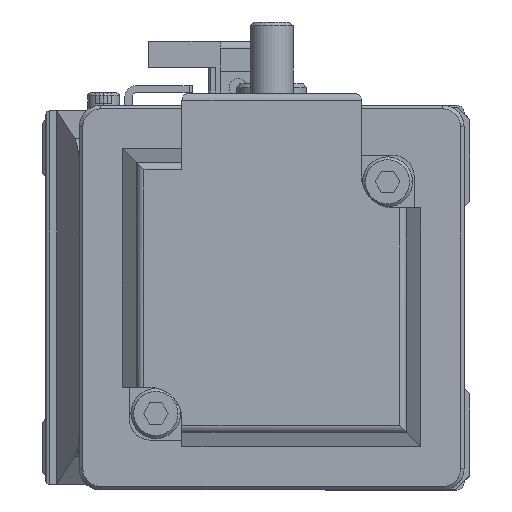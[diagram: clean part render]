
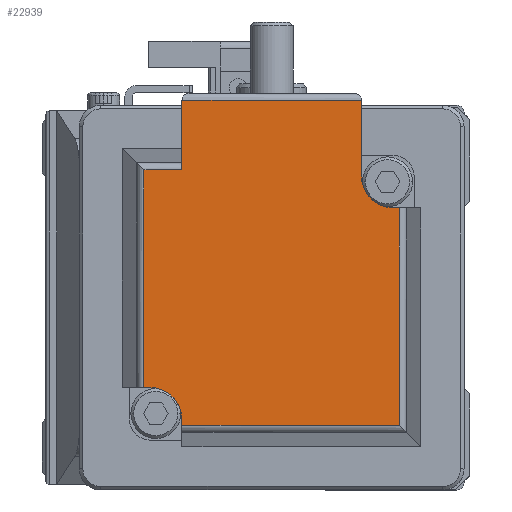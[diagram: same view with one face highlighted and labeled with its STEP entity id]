
A CAD part, left-side view. The second image highlights one B-rep face of the part: STEP entity #22939.
In plain terms, the highlighted planar face has unit normal (-1, 0, 0) as drawn and (0, 1, 0) by its records, which use the part's own axes.
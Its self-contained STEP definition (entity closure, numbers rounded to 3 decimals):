
#429 = VERTEX_POINT ( 'NONE', #18864 ) ;
#462 = CARTESIAN_POINT ( 'NONE',  ( 17.1, 100.6, 12.6 ) ) ;
#1543 = VECTOR ( 'NONE', #20682, 1000. ) ;
#2926 = EDGE_LOOP ( 'NONE', ( #19923, #18017, #29161, #12295, #6272, #15497, #29531, #12129, #11761, #33203, #30612, #18738 ) ) ;
#3262 = DIRECTION ( 'NONE',  ( -1., 0., 0. ) ) ;
#3665 = VERTEX_POINT ( 'NONE', #462 ) ;
#3719 = DIRECTION ( 'NONE',  ( 0., 0., -1. ) ) ;
#4167 = VERTEX_POINT ( 'NONE', #31890 ) ;
#5148 = VERTEX_POINT ( 'NONE', #10006 ) ;
#5802 = VERTEX_POINT ( 'NONE', #33264 ) ;
#6034 = CARTESIAN_POINT ( 'NONE',  ( 12.6, 100.6, 17.929 ) ) ;
#6272 = ORIENTED_EDGE ( 'NONE', *, *, #6779, .F. ) ;
#6690 = EDGE_CURVE ( 'NONE', #3665, #5802, #8252, .T. ) ;
#6739 = DIRECTION ( 'NONE',  ( -1., 0., 0. ) ) ;
#6779 = EDGE_CURVE ( 'NONE', #10808, #4167, #15882, .T. ) ;
#6853 = VECTOR ( 'NONE', #3719, 1000. ) ;
#6982 = DIRECTION ( 'NONE',  ( 0., -1., 0. ) ) ;
#7141 = CARTESIAN_POINT ( 'NONE',  ( -17.929, 100.6, 17.929 ) ) ;
#7212 = VECTOR ( 'NONE', #6739, 1000. ) ;
#7528 = PLANE ( 'NONE',  #14524 ) ;
#8169 = CARTESIAN_POINT ( 'NONE',  ( 17.929, 100.6, -12.6 ) ) ;
#8252 = CIRCLE ( 'NONE', #30283, 4.5 ) ;
#8402 = VERTEX_POINT ( 'NONE', #6034 ) ;
#9012 = EDGE_CURVE ( 'NONE', #15349, #15336, #9665, .T. ) ;
#9485 = DIRECTION ( 'NONE',  ( 0., 0., 1. ) ) ;
#9582 = LINE ( 'NONE', #31606, #29834 ) ;
#9665 = LINE ( 'NONE', #32546, #6853 ) ;
#10006 = CARTESIAN_POINT ( 'NONE',  ( 17.929, 100.6, -12.6 ) ) ;
#10108 = VERTEX_POINT ( 'NONE', #16351 ) ;
#10179 = CARTESIAN_POINT ( 'NONE',  ( -12.6, 100.6, -21. ) ) ;
#10218 = CARTESIAN_POINT ( 'NONE',  ( -17.1, 100.6, -12.6 ) ) ;
#10223 = EDGE_CURVE ( 'NONE', #15336, #16191, #32675, .T. ) ;
#10240 = VECTOR ( 'NONE', #19032, 1000. ) ;
#10808 = VERTEX_POINT ( 'NONE', #11660 ) ;
#11600 = VECTOR ( 'NONE', #30392, 1000. ) ;
#11660 = CARTESIAN_POINT ( 'NONE',  ( -12.6, 100.6, -17.929 ) ) ;
#11739 = FACE_OUTER_BOUND ( 'NONE', #2926, .T. ) ;
#11761 = ORIENTED_EDGE ( 'NONE', *, *, #9012, .F. ) ;
#12129 = ORIENTED_EDGE ( 'NONE', *, *, #10223, .F. ) ;
#12212 = DIRECTION ( 'NONE',  ( 0., 0., 1. ) ) ;
#12295 = ORIENTED_EDGE ( 'NONE', *, *, #27547, .F. ) ;
#12962 = CIRCLE ( 'NONE', #20956, 4.5 ) ;
#13062 = LINE ( 'NONE', #22593, #26380 ) ;
#13183 = VECTOR ( 'NONE', #12212, 1000. ) ;
#13586 = DIRECTION ( 'NONE',  ( 1., 0., 0. ) ) ;
#13702 = CARTESIAN_POINT ( 'NONE',  ( -12.6, 100.6, -17.1 ) ) ;
#14069 = LINE ( 'NONE', #14785, #7212 ) ;
#14524 = AXIS2_PLACEMENT_3D ( 'NONE', #20521, #15618, #33410 ) ;
#14785 = CARTESIAN_POINT ( 'NONE',  ( 17.929, 100.6, 12.6 ) ) ;
#15212 = LINE ( 'NONE', #30200, #13183 ) ;
#15219 = EDGE_CURVE ( 'NONE', #429, #3665, #14069, .T. ) ;
#15336 = VERTEX_POINT ( 'NONE', #32908 ) ;
#15349 = VERTEX_POINT ( 'NONE', #7141 ) ;
#15497 = ORIENTED_EDGE ( 'NONE', *, *, #29811, .T. ) ;
#15618 = DIRECTION ( 'NONE',  ( 0., -1., 0. ) ) ;
#15727 = EDGE_CURVE ( 'NONE', #10108, #429, #9582, .T. ) ;
#15882 = LINE ( 'NONE', #16322, #10240 ) ;
#16191 = VERTEX_POINT ( 'NONE', #10218 ) ;
#16322 = CARTESIAN_POINT ( 'NONE',  ( 17.929, 100.6, -17.929 ) ) ;
#16351 = CARTESIAN_POINT ( 'NONE',  ( 27.7, 100.6, -12.6 ) ) ;
#16621 = EDGE_CURVE ( 'NONE', #5802, #8402, #15212, .T. ) ;
#16759 = CARTESIAN_POINT ( 'NONE',  ( 17.1, 100.6, 17.1 ) ) ;
#16905 = VECTOR ( 'NONE', #3262, 1000. ) ;
#17236 = CARTESIAN_POINT ( 'NONE',  ( -17.1, 100.6, -17.1 ) ) ;
#17267 = EDGE_CURVE ( 'NONE', #5148, #10108, #28512, .T. ) ;
#17986 = VECTOR ( 'NONE', #13586, 1000. ) ;
#18017 = ORIENTED_EDGE ( 'NONE', *, *, #15727, .F. ) ;
#18243 = DIRECTION ( 'NONE',  ( 0., 0., 1. ) ) ;
#18738 = ORIENTED_EDGE ( 'NONE', *, *, #6690, .F. ) ;
#18864 = CARTESIAN_POINT ( 'NONE',  ( 27.7, 100.6, 12.6 ) ) ;
#19032 = DIRECTION ( 'NONE',  ( 1., 0., 0. ) ) ;
#19923 = ORIENTED_EDGE ( 'NONE', *, *, #15219, .F. ) ;
#20521 = CARTESIAN_POINT ( 'NONE',  ( 17.929, 100.6, 25. ) ) ;
#20682 = DIRECTION ( 'NONE',  ( 0., 0., 1. ) ) ;
#20956 = AXIS2_PLACEMENT_3D ( 'NONE', #17236, #6982, #25024 ) ;
#21842 = DIRECTION ( 'NONE',  ( 0., 0., -1. ) ) ;
#22593 = CARTESIAN_POINT ( 'NONE',  ( 17.929, 100.6, 25. ) ) ;
#22939 = ADVANCED_FACE ( 'NONE', ( #11739 ), #7528, .F. ) ;
#23090 = VERTEX_POINT ( 'NONE', #13702 ) ;
#23765 = LINE ( 'NONE', #31405, #16905 ) ;
#23991 = DIRECTION ( 'NONE',  ( 0., 1., 0. ) ) ;
#25024 = DIRECTION ( 'NONE',  ( 0., 0., -1. ) ) ;
#25273 = CARTESIAN_POINT ( 'NONE',  ( 17.929, 100.6, -12.6 ) ) ;
#26380 = VECTOR ( 'NONE', #9485, 1000. ) ;
#27547 = EDGE_CURVE ( 'NONE', #4167, #5148, #13062, .T. ) ;
#28512 = LINE ( 'NONE', #8169, #17986 ) ;
#28663 = EDGE_CURVE ( 'NONE', #23090, #16191, #12962, .T. ) ;
#29161 = ORIENTED_EDGE ( 'NONE', *, *, #17267, .F. ) ;
#29531 = ORIENTED_EDGE ( 'NONE', *, *, #28663, .T. ) ;
#29811 = EDGE_CURVE ( 'NONE', #10808, #23090, #32298, .T. ) ;
#29834 = VECTOR ( 'NONE', #18243, 1000. ) ;
#29972 = EDGE_CURVE ( 'NONE', #8402, #15349, #23765, .T. ) ;
#30200 = CARTESIAN_POINT ( 'NONE',  ( 12.6, 100.6, 25. ) ) ;
#30283 = AXIS2_PLACEMENT_3D ( 'NONE', #16759, #23991, #21842 ) ;
#30392 = DIRECTION ( 'NONE',  ( 1., 0., 0. ) ) ;
#30612 = ORIENTED_EDGE ( 'NONE', *, *, #16621, .F. ) ;
#31405 = CARTESIAN_POINT ( 'NONE',  ( 17.929, 100.6, 17.929 ) ) ;
#31606 = CARTESIAN_POINT ( 'NONE',  ( 27.7, 100.6, 25. ) ) ;
#31890 = CARTESIAN_POINT ( 'NONE',  ( 17.929, 100.6, -17.929 ) ) ;
#32298 = LINE ( 'NONE', #10179, #1543 ) ;
#32546 = CARTESIAN_POINT ( 'NONE',  ( -17.929, 100.6, 25. ) ) ;
#32675 = LINE ( 'NONE', #25273, #11600 ) ;
#32908 = CARTESIAN_POINT ( 'NONE',  ( -17.929, 100.6, -12.6 ) ) ;
#33203 = ORIENTED_EDGE ( 'NONE', *, *, #29972, .F. ) ;
#33264 = CARTESIAN_POINT ( 'NONE',  ( 12.6, 100.6, 17.1 ) ) ;
#33410 = DIRECTION ( 'NONE',  ( 0., 0., -1. ) ) ;
